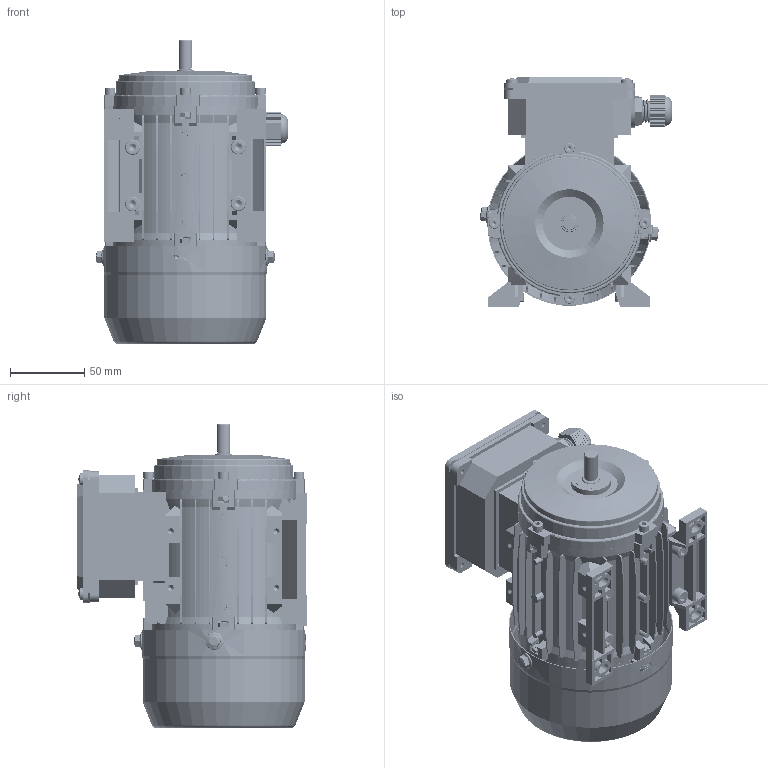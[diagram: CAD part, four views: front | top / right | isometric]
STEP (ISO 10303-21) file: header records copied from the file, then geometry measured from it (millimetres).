
FILE_DESCRIPTION (( 'STEP AP203' ), '1' );
FILE_NAME ('MS56 B3 3Dͼ.STEP', '2024-08-02T05:56:29', ( 'User' ), ( 'China' ), 'SwSTEP 2.0', 'SolidWorks 2018', '' );
FILE_SCHEMA (( 'CONFIG_CONTROL_DESIGN' ));
Length unit declared in the file: millimetre
Products named in the file (22): MS56蛌粣; 黑芛M16X1.5; MS56諉盄碟菁釱; MS56B3ヶ裔; MS56 B3  3Dͼ; 蹟杶郋M16X1.5; AO56瑞珔; 蹟杶簸M16X1.5; circlips for shaft--type a large gb_GB_CONNECTING_PIECE_RING_RRA 11; cross recessed pan head screws gb_GB_CROSS_SCREWS_TYPE1 M4X6-6  H type-S; MS56瑞欶; MS56諉盄碟裔; hexagon socket head cap screws gb_GB_FASTENER_SCREWS_HSHCS M4X16-S; MS56儂褲; MS56菁褐; hex nuts, style 1-grades ab gb_GB_FASTENER_NUT_SNAB1 M4-S; MS56B3綴裔; hexagon socket head cap screws gb_GB_FASTENER_SCREWS_HSHCS M6X16-S; spring lock washers--normal type gb_GB_FASTENER_WASHER_SW 4; deep groove ball bearings gb_Rolling bearings 6201 GB 276-94; 蚐猾12X22X3; hex flange bolts-heavy grade b gb_GB_FASTENER_BOLT_HFBB M5X10-S
Assembly tree (51 placements, depth 2):
  MS56 B3  3Dͼ
    MS56儂褲
    MS56B3綴裔
    deep groove ball bearings gb_Rolling bearings 6201 GB 276-94  x2
    MS56蛌粣
    MS56B3ヶ裔
    AO56瑞珔
    circlips for shaft--type a large gb_GB_CONNECTING_PIECE_RING_RRA 11
    MS56瑞欶
    hexagon socket head cap screws gb_GB_FASTENER_SCREWS_HSHCS M4X16-S  x8
    hex nuts, style 1-grades ab gb_GB_FASTENER_NUT_SNAB1 M4-S  x7
    spring lock washers--normal type gb_GB_FASTENER_WASHER_SW 4  x4
    hex flange bolts-heavy grade b gb_GB_FASTENER_BOLT_HFBB M5X10-S  x3
    MS56諉盄碟菁釱
    蹟杶郋M16X1.5
    蹟杶簸M16X1.5
    cross recessed pan head screws gb_GB_CROSS_SCREWS_TYPE1 M4X6-6  H type-S  x8
    MS56諉盄碟裔
    MS56菁褐  x2
    hexagon socket head cap screws gb_GB_FASTENER_SCREWS_HSHCS M6X16-S  x4
    蚐猾12X22X3
    黑芛M16X1.5
Bounding box: 129.02 x 154.5 x 204.54 mm (x, y, z)
Volume: 363005.7 mm3; surface area: 341047.4 mm2
Topology: 51 solids, 51 shells, 7179 faces, 17097 edges, 10009 vertices
Faces by surface type: cone 2632, plane 2340, cylinder 1803, torus 172, bspline 168, sphere 64
Entity records: 125394 total; most frequent: CARTESIAN_POINT 36356, ORIENTED_EDGE 18378, DIRECTION 17237, EDGE_CURVE 9189, AXIS2_PLACEMENT_3D 5782, VERTEX_POINT 5775, VECTOR 5673, LINE 5673
